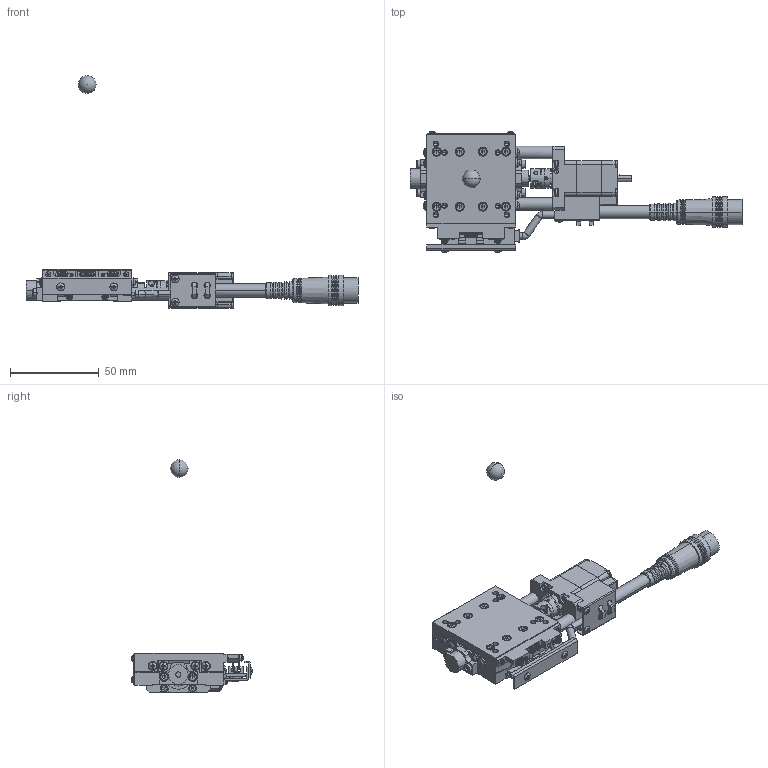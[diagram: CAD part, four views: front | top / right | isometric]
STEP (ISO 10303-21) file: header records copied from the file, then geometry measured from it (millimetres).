
FILE_DESCRIPTION (( 'STEP AP203' ), '1' );
FILE_NAME ('SA05A-R2G01-R.STEP', '2019-02-25T01:12:32', ( '' ), ( '' ), 'SwSTEP 2.0', 'SolidWorks 2018', '' );
FILE_SCHEMA (( 'CONFIG_CONTROL_DESIGN' ));
Length unit declared in the file: millimetre
Products named in the file (7): rotation center; base-Part-1; table; base-Part-3; base-Part-2; SA05A-R2G01-R; base
Assembly tree (6 placements, depth 3):
  SA05A-R2G01-R
    base
      base-Part-1
      base-Part-2
      base-Part-3
    rotation center
    table
Bounding box: 187 x 67.96 x 131 mm (x, y, z)
Volume: 76363.3 mm3; surface area: 39111.5 mm2
Topology: 5 solids, 5 shells, 2476 faces, 6240 edges, 3876 vertices
Faces by surface type: plane 1561, cylinder 539, cone 186, torus 134, sphere 50, bspline 6
Entity records: 76195 total; most frequent: CARTESIAN_POINT 15233, DIRECTION 12993, ORIENTED_EDGE 12298, EDGE_CURVE 6149, AXIS2_PLACEMENT_3D 4578, VERTEX_POINT 3869, VECTOR 3837, LINE 3837
